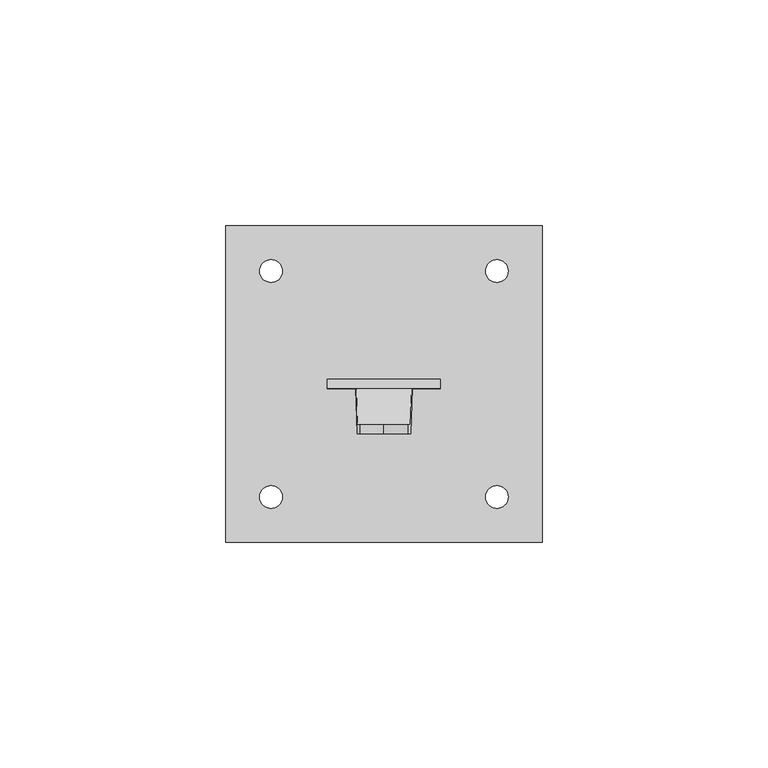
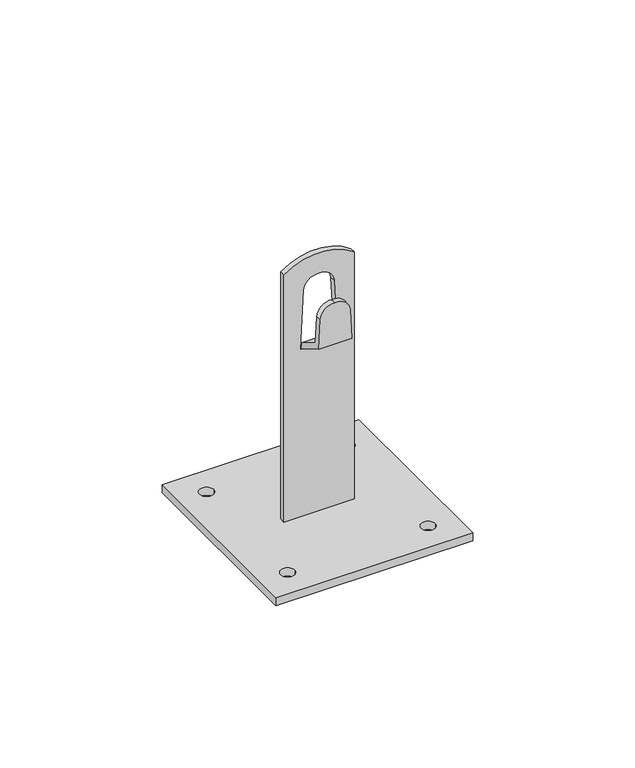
"""IFC4 building model written with IfcOpenShell, lengths in millimetres: proxy geometry, КНС_ДержательМеталлический_DKC : ND2106CU_Медь_100 мм."""

from ifc_helpers import new_model, si_unit, frame, origin, place, context, project, spatial, polyline, circle_curve, source, transform, mapped, element, save
from ifc_brep_helpers import plane_surface, cylinder_surface, revolved_surface, advanced_brep


def security_devices_0ba9905d(model_context):
    return source(origin(), model_context, "Body", "AdvancedBrep", [
        advanced_brep(
        [(-12.5, 1.0, 95.874537), (12.5, 1.0, 95.874537), (12.5, 1.0, 3.0), (-12.5, 1.0, 3.0), (-5.3645288, 1.0, 87.6660817), (-6.5, 1.0, 66.0), (6.5, 1.0, 66.0), (5.3645288, 1.0, 87.6660817), (0.0, 1.0, 92.1674559), (12.5, -1.0, 95.874537), (-12.5, -1.0, 95.874537), (-12.5, -1.0, 3.0), (12.5, -1.0, 3.0), (-5.3645288, -1.0, 87.6660817), (0.0, -1.0, 92.1674559), (5.3645288, -1.0, 87.6660817), (6.5, -1.0, 66.0), (-6.5, -1.0, 66.0), (35.0, -35.0, 0.0), (-35.0, -35.0, 0.0), (-35.0, 35.0, 0.0), (35.0, 35.0, 0.0), (-27.5022388, 25.0, 0.0), (-22.4977612, 25.0, 0.0), (22.4977612, 25.0, 0.0), (27.5022388, 25.0, 0.0), (-27.5022388, -25.0, 0.0), (-22.4977612, -25.0, 0.0), (22.4977612, -25.0, 0.0), (27.5022388, -25.0, 0.0), (35.0, -35.0, 3.0), (35.0, 35.0, 3.0), (-35.0, 35.0, 3.0), (-35.0, -35.0, 3.0), (-27.5022388, 25.0, 3.0), (-22.4977612, 25.0, 3.0), (22.4977612, 25.0, 3.0), (27.5022388, 25.0, 3.0), (-27.5022388, -25.0, 3.0), (-22.4977612, -25.0, 3.0), (22.4977612, -25.0, 3.0), (27.5022388, -25.0, 3.0)],
        [
            (0, 1, circle_curve(frame((0.0, 1.0, 79.0), z_axis=(0.0, 1.0, 0.0), x_axis=(1.0, 0.0, 0.0)), 21.0)),
            (1, 2),
            (2, 3),
            (3, 0),
            (4, 5),
            (5, 6),
            (6, 7),
            (7, 8, circle_curve(frame((0.5834648, 1.0, 87.4155168), z_axis=(0.0, -1.0, 0.0), x_axis=(1.0, 0.0, 0.0)), 4.7876253)),
            (8, 4, circle_curve(frame((-0.5834648, 1.0, 87.4155168), z_axis=(0.0, -1.0, 0.0), x_axis=(1.0, 0.0, 0.0)), 4.7876253)),
            (9, 10, circle_curve(frame((0.0, -1.0, 79.0), z_axis=(0.0, -1.0, 0.0), x_axis=(1.0, 0.0, 0.0)), 21.0)),
            (10, 11),
            (11, 12),
            (12, 9),
            (13, 14, circle_curve(frame((-0.5834648, -1.0, 87.4155168), z_axis=(0.0, 1.0, 0.0), x_axis=(1.0, 0.0, 0.0)), 4.7876253)),
            (14, 15, circle_curve(frame((0.5834648, -1.0, 87.4155168), z_axis=(0.0, 1.0, 0.0), x_axis=(1.0, 0.0, 0.0)), 4.7876253)),
            (15, 16),
            (16, 17),
            (17, 13),
            (10, 0),
            (3, 11),
            (1, 9),
            (12, 2),
            (18, 19),
            (19, 20),
            (20, 21),
            (21, 18),
            (22, 23, circle_curve(frame((-25.0, 25.0, 0.0), z_axis=(0.0, 0.0, 1.0), x_axis=(1.0, 0.0, 0.0)), 2.5022388)),
            (23, 22, circle_curve(frame((-25.0, 25.0, 0.0), z_axis=(0.0, 0.0, 1.0), x_axis=(1.0, 0.0, 0.0)), 2.5022388)),
            (24, 25, circle_curve(frame((25.0, 25.0, 0.0), z_axis=(0.0, 0.0, 1.0), x_axis=(1.0, 0.0, 0.0)), 2.5022388)),
            (25, 24, circle_curve(frame((25.0, 25.0, 0.0), z_axis=(0.0, 0.0, 1.0), x_axis=(1.0, 0.0, 0.0)), 2.5022388)),
            (26, 27, circle_curve(frame((-25.0, -25.0, 0.0), z_axis=(0.0, 0.0, 1.0), x_axis=(1.0, 0.0, 0.0)), 2.5022388)),
            (27, 26, circle_curve(frame((-25.0, -25.0, 0.0), z_axis=(0.0, 0.0, 1.0), x_axis=(1.0, 0.0, 0.0)), 2.5022388)),
            (28, 29, circle_curve(frame((25.0, -25.0, 0.0), z_axis=(0.0, 0.0, 1.0), x_axis=(1.0, 0.0, 0.0)), 2.5022388)),
            (29, 28, circle_curve(frame((25.0, -25.0, 0.0), z_axis=(0.0, 0.0, 1.0), x_axis=(1.0, 0.0, 0.0)), 2.5022388)),
            (8, 14),
            (13, 4),
            (7, 15),
            (6, 16),
            (5, 17),
            (30, 31),
            (31, 32),
            (32, 33),
            (33, 30),
            (34, 35, circle_curve(frame((-25.0, 25.0, 3.0), z_axis=(0.0, 0.0, -1.0), x_axis=(1.0, 0.0, 0.0)), 2.5022388)),
            (35, 34, circle_curve(frame((-25.0, 25.0, 3.0), z_axis=(0.0, 0.0, -1.0), x_axis=(1.0, 0.0, 0.0)), 2.5022388)),
            (36, 37, circle_curve(frame((25.0, 25.0, 3.0), z_axis=(0.0, 0.0, -1.0), x_axis=(1.0, 0.0, 0.0)), 2.5022388)),
            (37, 36, circle_curve(frame((25.0, 25.0, 3.0), z_axis=(0.0, 0.0, -1.0), x_axis=(1.0, 0.0, 0.0)), 2.5022388)),
            (38, 39, circle_curve(frame((-25.0, -25.0, 3.0), z_axis=(0.0, 0.0, -1.0), x_axis=(1.0, 0.0, 0.0)), 2.5022388)),
            (39, 38, circle_curve(frame((-25.0, -25.0, 3.0), z_axis=(0.0, 0.0, -1.0), x_axis=(1.0, 0.0, 0.0)), 2.5022388)),
            (40, 41, circle_curve(frame((25.0, -25.0, 3.0), z_axis=(0.0, 0.0, -1.0), x_axis=(1.0, 0.0, 0.0)), 2.5022388)),
            (41, 40, circle_curve(frame((25.0, -25.0, 3.0), z_axis=(0.0, 0.0, -1.0), x_axis=(1.0, 0.0, 0.0)), 2.5022388)),
            (30, 18),
            (21, 31),
            (20, 32),
            (19, 33),
            (34, 22),
            (23, 35),
            (36, 24),
            (25, 37),
            (38, 26),
            (27, 39),
            (40, 28),
            (29, 41),
        ],
        [
            plane_surface(frame((-12.5, 1.0, 0.0), z_axis=(0.0, 1.0, 0.0), x_axis=(0.0, 0.0, 1.0))),
            plane_surface(frame((-12.5, -1.0, 0.0), z_axis=(0.0, -1.0, 0.0), x_axis=(0.0, 0.0, -1.0))),
            plane_surface(frame((-12.5, -1.0, 50.0), z_axis=(-1.0, 0.0, 0.0), x_axis=(0.0, 1.0, 0.0))),
            plane_surface(frame((12.5, -1.0, 0.0), z_axis=(1.0, 0.0, 0.0), x_axis=(0.0, 1.0, 0.0))),
            plane_surface(frame((-12.5, -1.0, 0.0), z_axis=(0.0, 0.0, -1.0), x_axis=(0.0, 1.0, 0.0))),
            cylinder_surface(frame((0.0, 1.0, 79.0), z_axis=(0.0, -1.0, 0.0), x_axis=(1.0, 0.0, 0.0)), 21.0),
            revolved_surface(polyline([(4.2041605, 1.0, 87.4155168), (4.2041605, -1.0, 87.4155168)]), (-0.5834648, 0.0, 87.4155168), (0.0, 1.0, 0.0)),
            revolved_surface(polyline([(5.3710901, 1.0, 87.4155168), (5.3710901, -1.0, 87.4155168)]), (0.5834648, 0.0, 87.4155168), (0.0, 1.0, 0.0)),
            plane_surface(frame((5.3645288, -1.0, 87.6660817), z_axis=(-0.9986295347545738, 0.0, -0.05233595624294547), x_axis=(0.0, 1.0, 0.0))),
            plane_surface(frame((6.5, -1.0, 66.0), z_axis=(0.0, 0.0, 1.0), x_axis=(0.0, 1.0, 0.0))),
            plane_surface(frame((-6.5, -1.0, 66.0), z_axis=(0.9986295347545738, 0.0, -0.052335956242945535), x_axis=(0.0, 1.0, 0.0))),
            plane_surface(frame((35.0, -36.5700678, 3.0), z_axis=(0.0, 0.0, 1.0), x_axis=(0.0, 1.0, 0.0))),
            plane_surface(frame((35.0, -35.0, 3.0), z_axis=(1.0, 0.0, 0.0), x_axis=(0.0, 0.0, -1.0))),
            plane_surface(frame((35.0, 35.0, 3.0), z_axis=(0.0, 1.0, 0.0), x_axis=(0.0, 0.0, -1.0))),
            plane_surface(frame((-35.0, 35.0, 3.0), z_axis=(-1.0, 0.0, 0.0), x_axis=(0.0, 0.0, -1.0))),
            plane_surface(frame((-35.0, -35.0, 3.0), z_axis=(0.0, -1.0, 0.0), x_axis=(0.0, 0.0, -1.0))),
            revolved_surface(polyline([(-22.4977612, 25.0, 0.0), (-22.4977612, 25.0, 3.0)]), (-25.0, 25.0, 0.0), (0.0, 0.0, -1.0)),
            revolved_surface(polyline([(27.5022388, 25.0, 0.0), (27.5022388, 25.0, 3.0)]), (25.0, 25.0, 0.0), (0.0, 0.0, -1.0)),
            revolved_surface(polyline([(-22.4977612, -25.0, 0.0), (-22.4977612, -25.0, 3.0)]), (-25.0, -25.0, 0.0), (0.0, 0.0, -1.0)),
            revolved_surface(polyline([(27.5022388, -25.0, 0.0), (27.5022388, -25.0, 3.0)]), (25.0, -25.0, 0.0), (0.0, 0.0, -1.0)),
        ],
        [
            (0, [[1, 2, 3, 4], [5, 6, 7, 8, 9]]),
            (1, [[10, 11, 12, 13], [14, 15, 16, 17, 18]]),
            (2, [[19, -4, 20, -11]]),
            (3, [[21, -13, 22, -2]]),
            (4, [[23, 24, 25, 26], [27, 28], [29, 30], [31, 32], [33, 34]]),
            (5, [[-1, -19, -10, -21]]),
            (6, [[-9, 35, -14, 36]]),
            (7, [[-8, 37, -15, -35]]),
            (8, [[-7, 38, -16, -37]]),
            (9, [[-6, 39, -17, -38]]),
            (10, [[-5, -36, -18, -39]]),
            (11, [[40, 41, 42, 43], [-3, -22, -12, -20], [44, 45], [46, 47], [48, 49], [50, 51]]),
            (12, [[-40, 52, -26, 53]]),
            (13, [[-41, -53, -25, 54]]),
            (14, [[-42, -54, -24, 55]]),
            (15, [[-43, -55, -23, -52]]),
            (16, [[-44, 56, -28, 57]]),
            (16, [[-45, -57, -27, -56]]),
            (17, [[-46, 58, -30, 59]]),
            (17, [[-47, -59, -29, -58]]),
            (18, [[-48, 60, -32, 61]]),
            (18, [[-49, -61, -31, -60]]),
            (19, [[-50, 62, -34, 63]]),
            (19, [[-51, -63, -33, -62]]),
        ],
    ),
        advanced_brep(
        [(5.3645288, -11.0, 82.6660817), (0.0, -11.0, 87.1674559), (-5.3645288, -11.0, 82.6660817), (-5.9353846, -11.0, 71.7735027), (5.9353846, -11.0, 71.7735027), (6.2379611, -1.0, 66.0), (-6.2379611, -1.0, 66.0), (-6.1169305, -1.0, 68.3094011), (6.1169305, -1.0, 68.3094011), (-5.3645288, -9.0, 82.6660817), (-5.8748694, -9.0, 72.9282032), (5.8748694, -9.0, 72.9282032), (5.3645288, -9.0, 82.6660817), (0.0, -9.0, 87.1674559)],
        [
            (0, 1, circle_curve(frame((0.5834648, -11.0, 82.4155168), z_axis=(0.0, -1.0, 0.0), x_axis=(1.0, 0.0, 0.0)), 4.7876253)),
            (1, 2, circle_curve(frame((-0.5834648, -11.0, 82.4155168), z_axis=(0.0, -1.0, 0.0), x_axis=(1.0, 0.0, 0.0)), 4.7876253)),
            (2, 3),
            (3, 4),
            (4, 0),
            (5, 6),
            (6, 7),
            (7, 8),
            (8, 5),
            (2, 9),
            (9, 10),
            (10, 7),
            (6, 3),
            (4, 5),
            (8, 11),
            (11, 12),
            (12, 0),
            (12, 13, circle_curve(frame((0.5834648, -9.0, 82.4155168), z_axis=(0.0, -1.0, 0.0), x_axis=(1.0, 0.0, 0.0)), 4.7876253)),
            (13, 1),
            (13, 9, circle_curve(frame((-0.5834648, -9.0, 82.4155168), z_axis=(0.0, -1.0, 0.0), x_axis=(1.0, 0.0, 0.0)), 4.7876253)),
            (10, 11),
        ],
        [
            plane_surface(frame((-6.2414541, -11.0, 65.9333499), z_axis=(0.0, -1.0, 0.0), x_axis=(-0.05233595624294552, 0.0, -0.9986295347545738))),
            plane_surface(frame((-6.2414541, -1.0, 65.9333499), z_axis=(0.0, 1.0, 0.0), x_axis=(0.05233595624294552, 0.0, 0.9986295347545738))),
            plane_surface(frame((-5.3645288, -11.0, 82.6660817), z_axis=(-0.9986295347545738, 0.0, 0.05233595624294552), x_axis=(0.0, 1.0, 0.0))),
            plane_surface(frame((6.2379611, -11.0, 66.0), z_axis=(0.9986295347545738, 0.0, 0.05233595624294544), x_axis=(0.0, 1.0, 0.0))),
            cylinder_surface(frame((0.5834648, -1.0, 82.4155168), z_axis=(0.0, -1.0, 0.0), x_axis=(1.0, 0.0, 0.0)), 4.7876253),
            cylinder_surface(frame((-0.5834648, -1.0, 82.4155168), z_axis=(0.0, -1.0, 0.0), x_axis=(1.0, 0.0, 0.0)), 4.7876253),
            plane_surface(frame((12.5, -1.0, 66.0), z_axis=(0.0, -0.5000000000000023, -0.8660254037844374), x_axis=(-1.0, 0.0, 0.0))),
            plane_surface(frame((12.5, -9.0, 72.9282032), z_axis=(0.0, 0.5000000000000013, 0.8660254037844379), x_axis=(-1.0, 0.0, 0.0))),
            plane_surface(frame((12.5, -9.0, 97.9372685), z_axis=(0.0, 1.0, 0.0), x_axis=(-1.0, 0.0, 0.0))),
        ],
        [
            (0, [[1, 2, 3, 4, 5]]),
            (1, [[6, 7, 8, 9]]),
            (2, [[-3, 10, 11, 12, -7, 13]]),
            (3, [[-5, 14, -9, 15, 16, 17]]),
            (4, [[-1, -17, 18, 19]]),
            (5, [[-2, -19, 20, -10]]),
            (6, [[-4, -13, -6, -14]]),
            (7, [[21, -15, -8, -12]]),
            (8, [[-21, -11, -20, -18, -16]]),
        ],
    ),
    ])


if __name__ == "__main__":
    model = new_model("IFC4")
    model_context = context("Model", 3, world=origin())
    ifc_project = project(units=[si_unit("LENGTHUNIT", "METRE", prefix="MILLI")], contexts=[model_context])
    site = spatial("IfcSite", under=ifc_project)
    building = spatial("IfcBuilding", under=site)
    placement = place(None, origin())
    security_devices_shape = security_devices_0ba9905d(model_context)
    element("IfcBuildingElementProxy", 1, Name="КНС_ДержательМеталлический_DKC : ND2106CU_Медь_100 мм", ObjectType="КНС_ДержательМеталлический_DKC : ND2106CU_Медь_100 мм", at=placement, inside=building, context=model_context, shape_type="MappedRepresentation", body=[
        mapped(security_devices_shape, transform((0.0, 0.0, 0.0), x_axis=(1.0, 0.0, 0.0), y_axis=(0.0, 1.0, 0.0), z_axis=(0.0, 0.0, 1.0))),
    ])
    save(model, "model.ifc")
